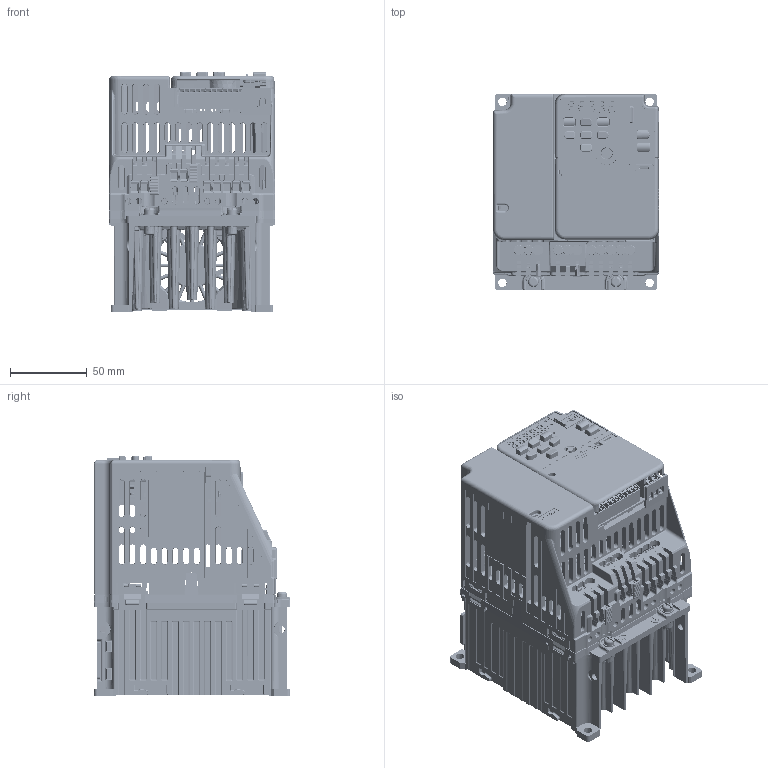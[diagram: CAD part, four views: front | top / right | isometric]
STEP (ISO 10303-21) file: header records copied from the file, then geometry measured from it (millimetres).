
FILE_DESCRIPTION((''),'2;1');
FILE_NAME('GA500_STD_FRAME_V2-H_ASM','2019-03-08T',('anm'),('YASKAWA ELECTRIC CORCORATION'),'PRO/ENGINEER BY PARAMETRIC TECHNOLOGY CORPORATION, 2015440','PRO/ENGINEER BY PARAMETRIC TECHNOLOGY CORPORATION, 2015440','');
FILE_SCHEMA(('CONFIG_CONTROL_DESIGN'));
Products named in the file (130): LAY_KIPR-GA50_Q_B010_2; 400-104-195_AF0_2; SCAT41279-1_2; 400-104-226_AF0_2; 05020VE24XBA-XXX_2; 400-107-684_2; 400-104-271-01D-4_6PCB_AF0_2; MKDS5NHV_5-ZB-6P35_AF0_2; MKDS5NHV_2-ZB-6P35_AF0_2; ETP761340_6PCB_AF0_ASM_2_ASM; 400-104-271-01D-4_5PCB_AF0_2; MKDS5NHV_2-ZB-6P35_AF1_2; ETP761340_5PCB_AF0_ASM_2_ASM; 400-108-062_AF1_2; 400-108-062_AF0_ASM_2_ASM; 400-104-023-01F-5_2; 95003-2884_2; B12B-PASK-1_2; MANIFOLD_SOLID_BREP_397157; MANIFOLD_SOLID_BREP_397308; MANIFOLD_SOLID_BREP_397459; MANIFOLD_SOLID_BREP_397610; MANIFOLD_SOLID_BREP_397763; MANIFOLD_SOLID_BREP_397914; MANIFOLD_SOLID_BREP_398065; MANIFOLD_SOLID_BREP_398216; MANIFOLD_SOLID_BREP_398367; MANIFOLD_SOLID_BREP_398518; MANIFOLD_SOLID_BREP_398669; 1734753-1_AF1_2_ASM; MANIFOLD_SOLID_BREP_408588; MANIFOLD_SOLID_BREP_408772; MANIFOLD_SOLID_BREP_408956; MANIFOLD_SOLID_BREP_409140; MANIFOLD_SOLID_BREP_409324; MANIFOLD_SOLID_BREP_409475; MANIFOLD_SOLID_BREP_409626; MANIFOLD_SOLID_BREP_409777; MANIFOLD_SOLID_BREP_409928; MANIFOLD_SOLID_BREP_410079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
Assembly tree (132 placements, depth 6):
  GA500_STD_FRAME_V2-H_ASM
    KIPR-GA50_Q_B010_ASM_3_ASM
      LAY_KIPR-GA50_Q_B010_2
      400-104-195_AF0_2
      SCAT41279-1_2  x2
      400-104-226_AF0_2
      05020VE24XBA-XXX_2
      400-107-684_2
      ETP761340_6PCB_AF0_ASM_2_ASM
        400-104-271-01D-4_6PCB_AF0_2
        MKDS5NHV_5-ZB-6P35_AF0_2
        MKDS5NHV_2-ZB-6P35_AF0_2
      ETP761340_5PCB_AF0_ASM_2_ASM
        400-104-271-01D-4_5PCB_AF0_2
        MKDS5NHV_2-ZB-6P35_AF1_2
      400-108-062_AF0_ASM_2_ASM
        400-108-062_AF1_2
      KTC750050-SXXXX_ASM_2_ASM
        400-104-023-01F-5_2
        95003-2884_2
        B12B-PASK-1_2
        1734753-1_AF1_2_ASM
          MANIFOLD_SOLID_BREP_397157
          MANIFOLD_SOLID_BREP_397308
          MANIFOLD_SOLID_BREP_397459
          MANIFOLD_SOLID_BREP_397610
          MANIFOLD_SOLID_BREP_397763
          MANIFOLD_SOLID_BREP_397914
          MANIFOLD_SOLID_BREP_398065
          MANIFOLD_SOLID_BREP_398216
          MANIFOLD_SOLID_BREP_398367
          MANIFOLD_SOLID_BREP_398518
          MANIFOLD_SOLID_BREP_398669
        DHB-PD20-S131N-4P9_AF1_2_ASM
          MANIFOLD_SOLID_BREP_408588
          MANIFOLD_SOLID_BREP_408772
          MANIFOLD_SOLID_BREP_408956
          MANIFOLD_SOLID_BREP_409140
          MANIFOLD_SOLID_BREP_409324
          MANIFOLD_SOLID_BREP_409475
          MANIFOLD_SOLID_BREP_409626
          MANIFOLD_SOLID_BREP_409777
          MANIFOLD_SOLID_BREP_409928
          MANIFOLD_SOLID_BREP_410079
          MANIFOLD_SOLID_BREP_410230
          MANIFOLD_SOLID_BREP_410381
          MANIFOLD_SOLID_BREP_410532
          MANIFOLD_SOLID_BREP_410683
          MANIFOLD_SOLID_BREP_410834
          MANIFOLD_SOLID_BREP_410985
          MANIFOLD_SOLID_BREP_411136
          MANIFOLD_SOLID_BREP_411287
          MANIFOLD_SOLID_BREP_411438
          MANIFOLD_SOLID_BREP_411589
          MANIFOLD_SOLID_BREP_411740
          MANIFOLD_SOLID_BREP_411891
          MANIFOLD_SOLID_BREP_412042
          MANIFOLD_SOLID_BREP_412193
          MANIFOLD_SOLID_BREP_412344
        KARI_SPTA1_9-3P5_AF0_2_ASM
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Bounding box: 108.58 x 128.29 x 156.75 mm (x, y, z)
Volume: 488569.4 mm3; surface area: 375618.3 mm2
Topology: 116 solids, 116 shells, 16333 faces, 44720 edges, 28629 vertices
Faces by surface type: plane 10249, cylinder 3315, cone 1051, bspline 925, torus 460, sphere 325, extrusion 8
Entity records: 561182 total; most frequent: CARTESIAN_POINT 156913, ORIENTED_EDGE 87900, DIRECTION 77438, EDGE_CURVE 43950, VECTOR 31172, LINE 31164, VERTEX_POINT 28367, AXIS2_PLACEMENT_3D 23133
